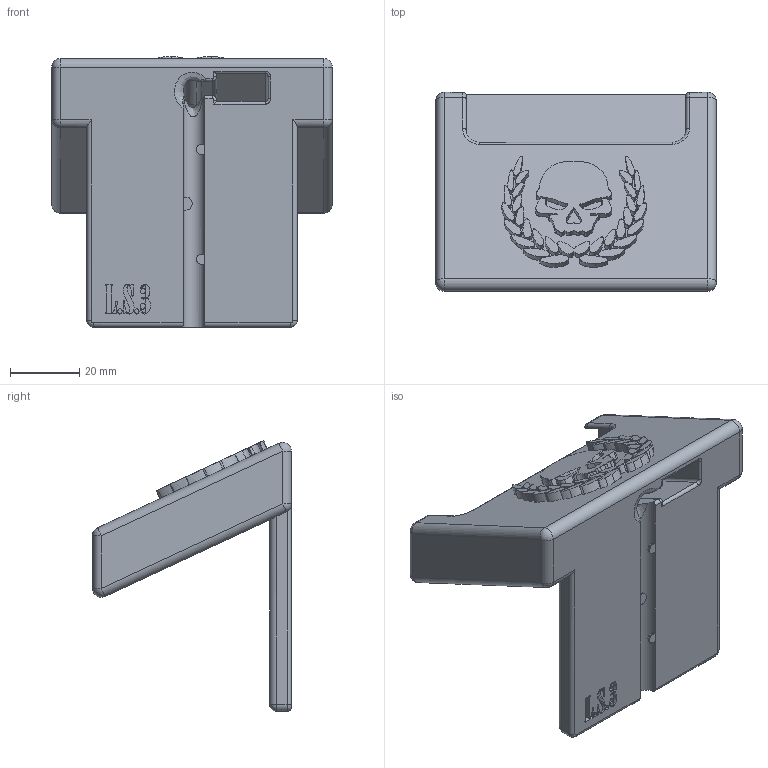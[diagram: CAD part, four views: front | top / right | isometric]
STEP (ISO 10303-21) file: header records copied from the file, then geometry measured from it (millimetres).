
FILE_DESCRIPTION(/* description */ (''),/* implementation_level */ '2;1');
FILE_NAME(/* name */ 'C:/Users/McSalce''s/Downloads/GalaxyS7_BulkyV2.step.step',/* time_stamp */ '2017-01-31T18:25:20-05:00',/* author */ (''),/* organization */ (''),/* preprocessor_version */ 'ST-DEVELOPER v16.5',/* originating_system */ 'Autodesk Translation Framework v5.2.0.2920',/* authorisation */ '');
FILE_SCHEMA (('AUTOMOTIVE_DESIGN { 1 0 10303 214 3 1 1 }'));
Length unit declared in the file: inch
Products named in the file (1): GalaxyS7_BulkyV2 v3
Bounding box: 81.28 x 57.55 x 78.32 mm (x, y, z)
Volume: 78774.9 mm3; surface area: 29433 mm2
Topology: 1 solids, 1 shells, 576 faces, 1548 edges, 998 vertices
Faces by surface type: bspline 354, plane 125, cylinder 71, sphere 14, torus 12
Entity records: 20129 total; most frequent: CARTESIAN_POINT 8730, ORIENTED_EDGE 3086, EDGE_CURVE 1539, DIRECTION 1447, VERTEX_POINT 994, LINE 667, VECTOR 667, EDGE_LOOP 610
